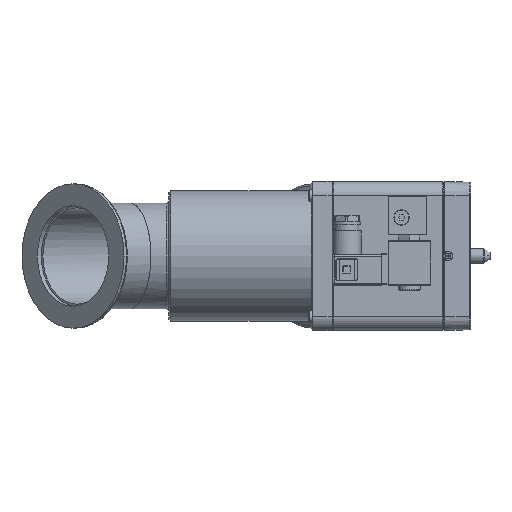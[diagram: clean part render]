
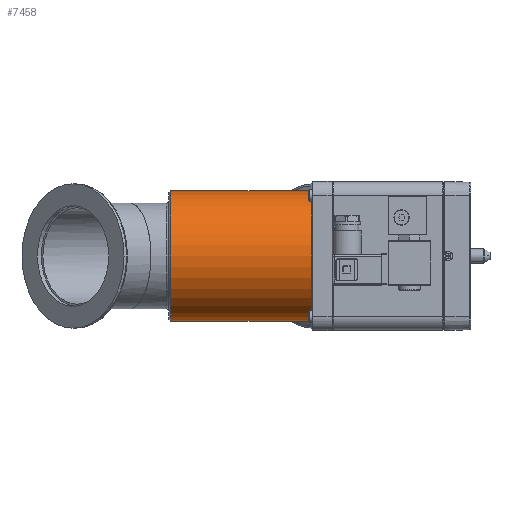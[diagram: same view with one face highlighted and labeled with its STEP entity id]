
A CAD part, front view. The second image highlights one B-rep face of the part: STEP entity #7458.
In plain terms, the highlighted cylindrical face has radius 33.95 mm (diameter 67.9 mm), a full revolution.
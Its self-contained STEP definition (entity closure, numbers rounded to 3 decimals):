
#7458=ADVANCED_FACE('',(#8585,#8586,#8587),#8271,.T.);
#8271=CYLINDRICAL_SURFACE('',#17468,33.95);
#8436=B_SPLINE_CURVE_WITH_KNOTS('',3,(#22663,#22664,#22665,#22666,#22667,
#22668,#22669,#22670,#22671,#22672,#22673,#22674,#22675,#22676,#22677,#22678,
#22679,#22680,#22681,#22682,#22683,#22684,#22685,#22686,#22687,#22688,#22689,
#22690,#22691,#22692,#22693,#22694,#22695,#22696),.UNSPECIFIED.,.T.,.F.,
(2,2,2,2,2,2,2,2,2,2,2,2,2,2,2,2,2,2,2),(-0.062,0.,0.063,0.125,
0.188,0.25,0.313,0.375,0.438,0.5,0.563,0.625,0.688,0.75,0.813,0.875,
0.938,1.,1.063),.UNSPECIFIED.);
#8585=FACE_BOUND('',#9168,.T.);
#8586=FACE_BOUND('',#9169,.T.);
#8587=FACE_BOUND('',#9170,.T.);
#9168=EDGE_LOOP('',(#10295));
#9169=EDGE_LOOP('',(#10296));
#9170=EDGE_LOOP('',(#10297));
#10295=ORIENTED_EDGE('',*,*,#15144,.T.);
#10296=ORIENTED_EDGE('',*,*,#15145,.T.);
#10297=ORIENTED_EDGE('',*,*,#15146,.F.);
#13875=VERTEX_POINT('',#22660);
#13876=VERTEX_POINT('',#22662);
#13877=VERTEX_POINT('',#22697);
#15144=EDGE_CURVE('',#13875,#13875,#16933,.T.);
#15145=EDGE_CURVE('',#13876,#13876,#16934,.T.);
#15146=EDGE_CURVE('',#13877,#13877,#8436,.T.);
#16933=CIRCLE('',#17466,33.95);
#16934=CIRCLE('',#17467,33.95);
#17466=AXIS2_PLACEMENT_3D('',#22659,#18826,#18827);
#17467=AXIS2_PLACEMENT_3D('',#22661,#18828,#18829);
#17468=AXIS2_PLACEMENT_3D('',#22698,#18830,#18831);
#18826=DIRECTION('',(1.,0.,0.));
#18827=DIRECTION('',(0.,0.,1.));
#18828=DIRECTION('',(-1.,0.,0.));
#18829=DIRECTION('',(0.,0.,1.));
#18830=DIRECTION('',(-1.,0.,0.));
#18831=DIRECTION('',(0.,0.,1.));
#22659=CARTESIAN_POINT('',(38.,0.,0.));
#22660=CARTESIAN_POINT('',(38.,0.,33.95));
#22661=CARTESIAN_POINT('',(111.025,0.,0.));
#22662=CARTESIAN_POINT('',(111.025,0.,33.95));
#22663=CARTESIAN_POINT('',(73.462,22.97,-25.));
#22664=CARTESIAN_POINT('',(66.538,22.97,-25.));
#22665=CARTESIAN_POINT('',(63.217,23.795,-24.276));
#22666=CARTESIAN_POINT('',(57.299,26.105,-21.772));
#22667=CARTESIAN_POINT('',(54.674,27.556,-19.999));
#22668=CARTESIAN_POINT('',(50.205,30.27,-15.589));
#22669=CARTESIAN_POINT('',(48.369,31.538,-12.958));
#22670=CARTESIAN_POINT('',(45.756,33.385,-6.929));
#22671=CARTESIAN_POINT('',(45.011,33.942,-3.504));
#22672=CARTESIAN_POINT('',(44.989,33.958,3.342));
#22673=CARTESIAN_POINT('',(45.703,33.423,6.749));
#22674=CARTESIAN_POINT('',(48.285,31.596,12.819));
#22675=CARTESIAN_POINT('',(50.132,30.318,15.499));
#22676=CARTESIAN_POINT('',(54.611,27.591,19.954));
#22677=CARTESIAN_POINT('',(57.215,26.147,21.724));
#22678=CARTESIAN_POINT('',(63.139,23.817,24.255));
#22679=CARTESIAN_POINT('',(66.496,22.98,24.99));
#22680=CARTESIAN_POINT('',(73.367,22.959,25.009));
#22681=CARTESIAN_POINT('',(76.766,23.79,24.28));
#22682=CARTESIAN_POINT('',(82.679,26.095,21.784));
#22683=CARTESIAN_POINT('',(85.316,27.551,20.006));
#22684=CARTESIAN_POINT('',(89.783,30.262,15.604));
#22685=CARTESIAN_POINT('',(91.639,31.543,12.949));
#22686=CARTESIAN_POINT('',(94.26,33.396,6.883));
#22687=CARTESIAN_POINT('',(94.989,33.942,3.521));
#22688=CARTESIAN_POINT('',(95.01,33.958,-3.368));
#22689=CARTESIAN_POINT('',(94.291,33.419,-6.767));
#22690=CARTESIAN_POINT('',(91.707,31.591,-12.832));
#22691=CARTESIAN_POINT('',(89.86,30.313,-15.51));
#22692=CARTESIAN_POINT('',(85.373,27.582,-19.967));
#22693=CARTESIAN_POINT('',(82.784,26.144,-21.728));
#22694=CARTESIAN_POINT('',(76.814,23.801,-24.271));
#22695=CARTESIAN_POINT('',(73.462,22.97,-25.));
#22696=CARTESIAN_POINT('',(66.538,22.97,-25.));
#22697=CARTESIAN_POINT('',(70.,22.97,-25.));
#22698=CARTESIAN_POINT('',(0.,0.,0.));
